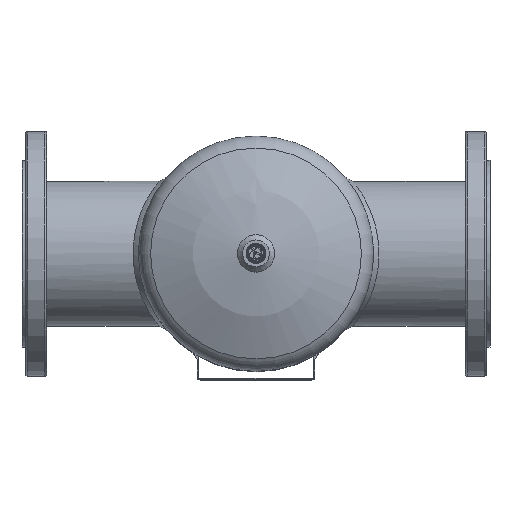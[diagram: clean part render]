
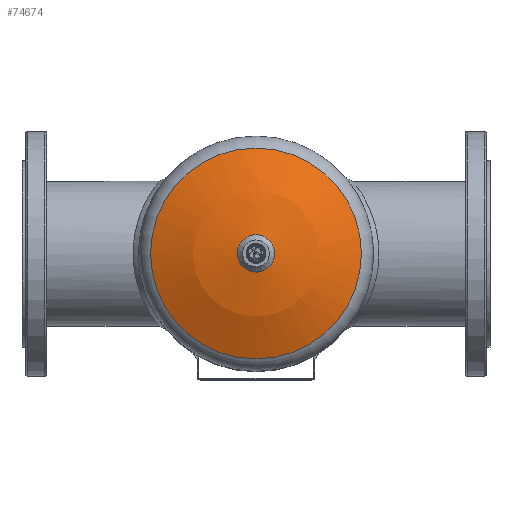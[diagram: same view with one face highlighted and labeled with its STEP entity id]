
A CAD part, top view. The second image highlights one B-rep face of the part: STEP entity #74674.
In plain terms, the highlighted spherical face has radius 273.2 mm.
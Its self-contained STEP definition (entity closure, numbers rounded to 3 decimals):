
#49=SPHERICAL_SURFACE('',#77147,273.2);
#26266=ORIENTED_EDGE('',*,*,#34451,.T.);
#26267=ORIENTED_EDGE('',*,*,#34452,.F.);
#34451=EDGE_CURVE('',#39634,#39634,#39973,.T.);
#34452=EDGE_CURVE('',#39635,#39635,#39974,.T.);
#39634=VERTEX_POINT('',#148900);
#39635=VERTEX_POINT('',#148902);
#39973=CIRCLE('',#77148,21.678);
#39974=CIRCLE('',#77149,122.501);
#43676=EDGE_LOOP('',(#26266));
#43677=EDGE_LOOP('',(#26267));
#47494=FACE_BOUND('',#43676,.T.);
#47495=FACE_BOUND('',#43677,.T.);
#74674=ADVANCED_FACE('',(#47494,#47495),#49,.T.);
#77147=AXIS2_PLACEMENT_3D('',#148898,#85837,#85838);
#77148=AXIS2_PLACEMENT_3D('',#148899,#85839,#85840);
#77149=AXIS2_PLACEMENT_3D('',#148901,#85841,#85842);
#85837=DIRECTION('',(0.,0.,-1.));
#85838=DIRECTION('',(1.,0.,0.));
#85839=DIRECTION('',(0.,0.,-1.));
#85840=DIRECTION('',(0.,1.,0.));
#85841=DIRECTION('',(0.,0.,-1.));
#85842=DIRECTION('',(-1.,0.,0.));
#148898=CARTESIAN_POINT('',(0.,0.002,-70.774));
#148899=CARTESIAN_POINT('',(0.,0.002,201.565));
#148900=CARTESIAN_POINT('',(0.,21.68,201.565));
#148901=CARTESIAN_POINT('',(0.,0.002,173.423));
#148902=CARTESIAN_POINT('',(-122.501,0.002,173.423));
